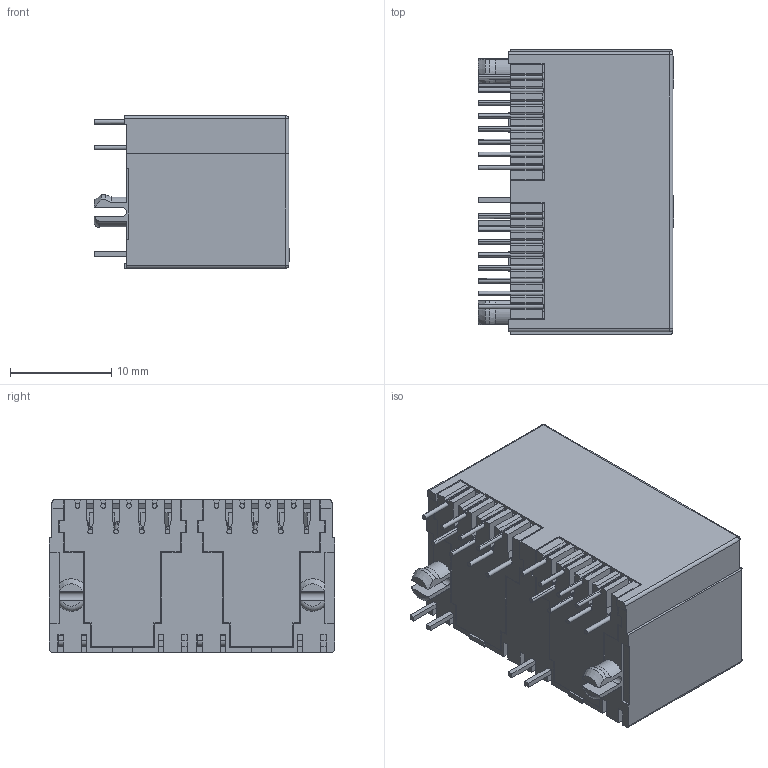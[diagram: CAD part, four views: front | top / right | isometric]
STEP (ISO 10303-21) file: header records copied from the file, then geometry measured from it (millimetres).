
FILE_DESCRIPTION((''),'2;1');
FILE_NAME('5224-LED-1X2-8P8C_ASM','2025-12-02T09:51:24',('HQW'),(''),'CREO PARAMETRIC BY PTC INC, 2024153','CREO PARAMETRIC BY PTC INC, 2024153','');
FILE_SCHEMA(('CONFIG_CONTROL_DESIGN','GEOMETRIC_VALIDATION_PROPERTIES_MIM'));
Length unit declared in the file: millimetre
Products named in the file (3): 5224-LED-1X2-00; 52240001; 5224-LED-1X2-8P8C_ASM
Assembly tree (3 placements, depth 2):
  5224-LED-1X2-8P8C_ASM
    5224-LED-1X2-00
    52240001  x2
Bounding box: 19.3 x 28.1 x 15.05 mm (x, y, z)
Volume: 3404.4 mm3; surface area: 6938.5 mm2
Topology: 5 solids, 5 shells, 1090 faces, 3192 edges, 2060 vertices
Faces by surface type: plane 804, cylinder 212, torus 34, bspline 32, sphere 4, cone 4
Entity records: 26833 total; most frequent: CARTESIAN_POINT 6270, ORIENTED_EDGE 4514, DIRECTION 3909, EDGE_CURVE 2257, VECTOR 1861, LINE 1861, VERTEX_POINT 1458, AXIS2_PLACEMENT_3D 1024
